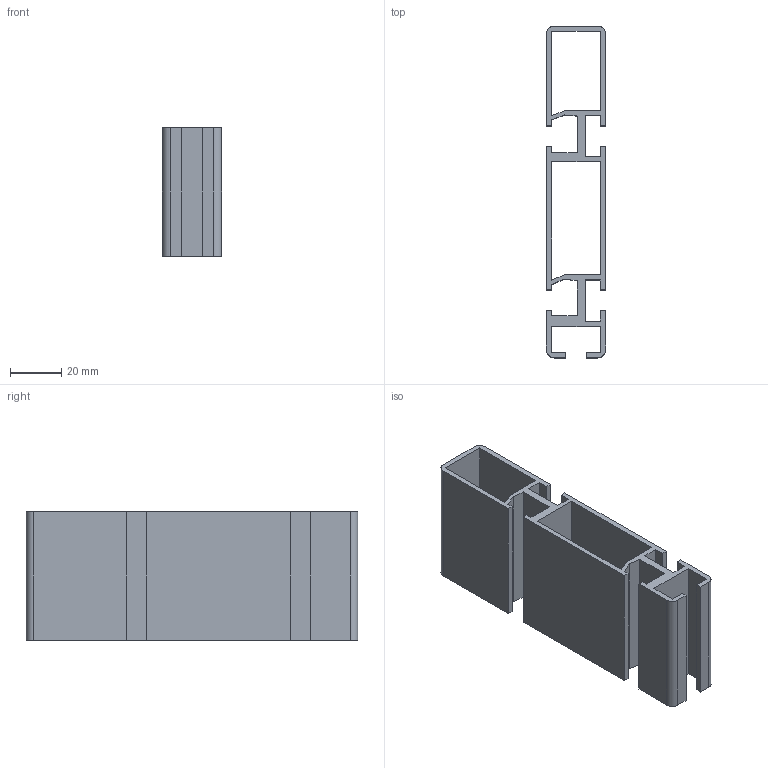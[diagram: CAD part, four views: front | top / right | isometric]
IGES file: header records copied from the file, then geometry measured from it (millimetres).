
Start section: SolidWorks IGES file using analytic representation for surfaces
Global section: file name: C:\Documents and Settings\URETIM3\Desktop\yeni katalog tolgay düzenli\C kataloðu\23x129 konveyör yan þase alüminyum profil (eloksallý)\765 023 129.IGS; native system: SolidWorks 2006 by SolidWorks Corporation; preprocessor: SolidWorks 2006 by SolidWorks Corporation; author: URETIM3; date: 060912.095226; units: millimetre
Bounding box: 23 x 129 x 50 mm (x, y, z)
Surface area: 37039 mm2 (no closed solid volume)
Topology: 0 solids, 0 shells, 62 faces, 416 edges, 416 vertices
Faces by surface type: bspline 58, revolution 4
